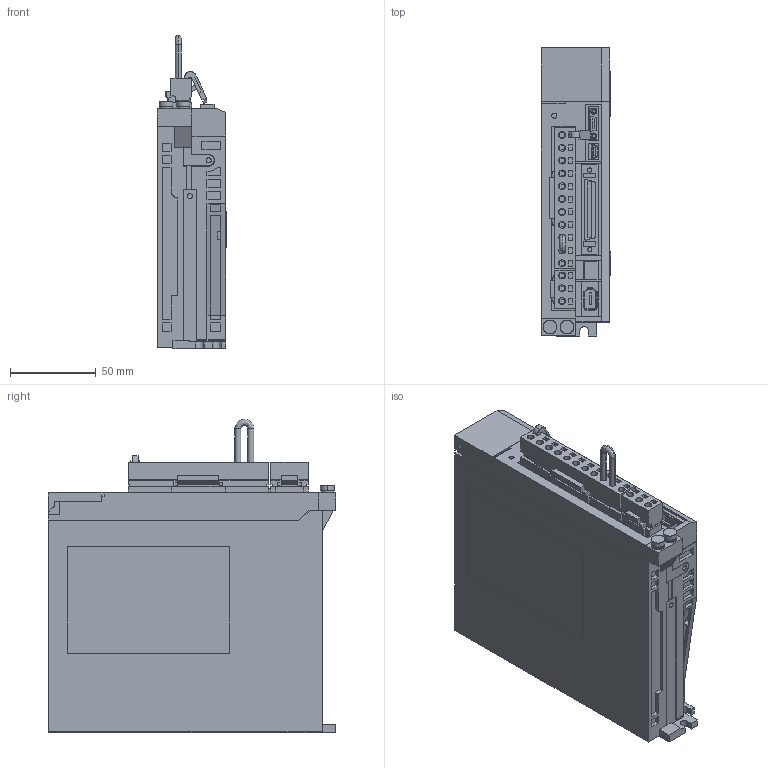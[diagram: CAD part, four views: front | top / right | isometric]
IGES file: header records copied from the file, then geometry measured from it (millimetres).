
Start section: SolidWorks IGES file using analytic representation for surfaces
Global section: file name: D:\YASKAWA\sgdxs_r90a00a.IGS; native system: SolidWorks 2006 by SolidWorks Corporation; preprocessor: SolidWorks 2006 by SolidWorks Corporation; author: yamanouchi; date: 210219.102345; units: millimetre
Bounding box: 40.5 x 168 x 183 mm (x, y, z)
Surface area: 131082.5 mm2 (no closed solid volume)
Topology: 0 solids, 0 shells, 1631 faces, 13120 edges, 13120 vertices
Faces by surface type: bspline 1414, revolution 217
